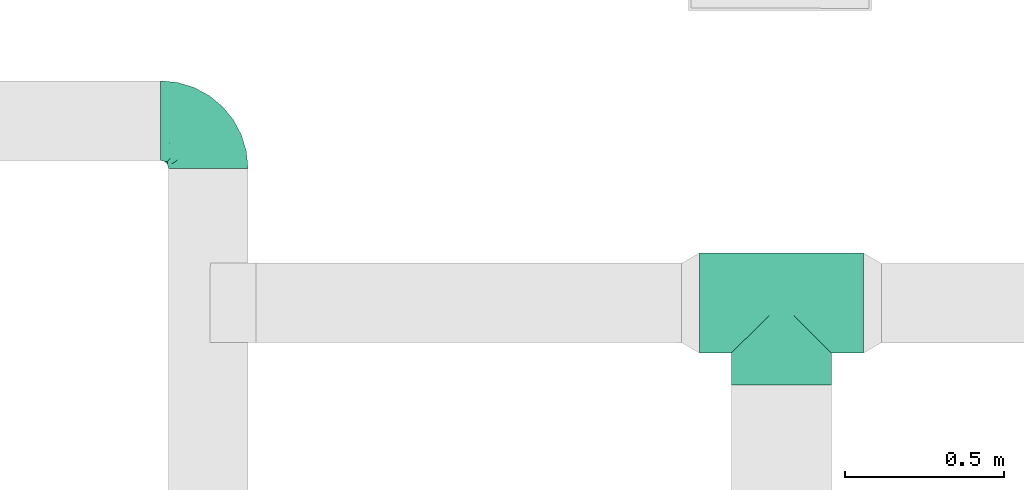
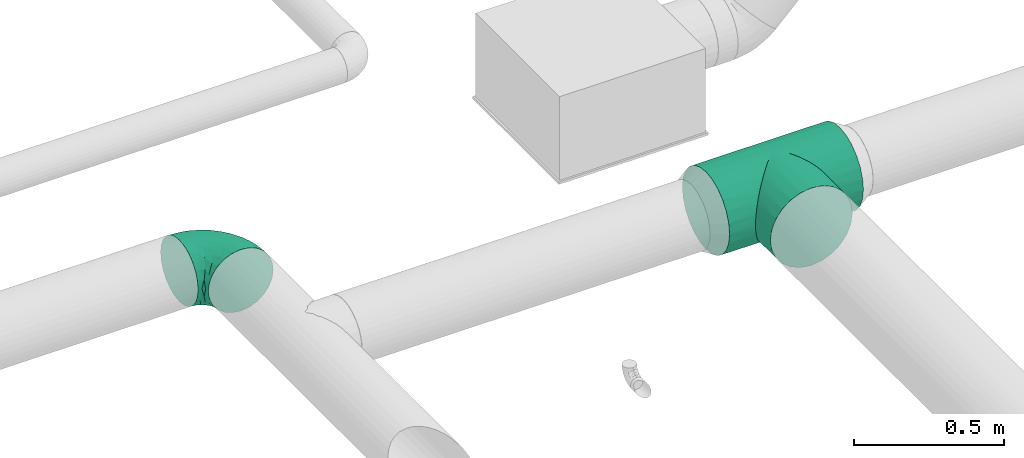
# One storey, part 43 of 63: 2 flow fittings.
"""IFC2X3 building model written with IfcOpenShell, lengths in millimetres."""

import ifcopenshell
import ifcopenshell.guid

model = None  # the IFC model being written
_history = None  # IfcOwnerHistory: only IFC2X3 demands one
_inside = {}  # id of a spatial element -> (the spatial element, [elements in it])
_under = {}  # id of a project, library or spatial element -> (it, [spatial elements below it])
_declared = {}  # id of a project -> (the project, [libraries it declares])
_typed = {}  # id of a type object -> (the type object, [elements of that type])
_made_of = {}  # id of a material, layer set ... -> (it, [elements and type objects made of it])


def new_model(schema):
    """Start an empty IFC model of exactly this schema.

    Asked for "IFC4X3", IfcOpenShell would pick the latest addendum, in which some entities
    have other attributes; the version numbers below select the first issue.
    IFC2X3 requires an IfcOwnerHistory on every rooted entity: one is made here for all.
    """
    global model, _history
    if schema == "IFC4X3":
        model = ifcopenshell.file(schema_version=(4, 3, 0, 0))
    else:
        model = ifcopenshell.file(schema=schema)
    _inside.clear()
    _under.clear()
    _declared.clear()
    _typed.clear()
    _made_of.clear()
    _history = None
    if model.schema == "IFC2X3":
        org = make("IfcOrganization", Name="unknown")
        user = make(
            "IfcPersonAndOrganization",
            ThePerson=make("IfcPerson", FamilyName="unknown"),
            TheOrganization=org,
        )
        app = make(
            "IfcApplication",
            ApplicationDeveloper=org,
            Version="unknown",
            ApplicationFullName="unknown",
            ApplicationIdentifier="unknown",
        )
        _history = make(
            "IfcOwnerHistory",
            OwningUser=user,
            OwningApplication=app,
            ChangeAction="ADDED",
            CreationDate=0,
        )
    return model


def make(cls, **values):
    """One entity of the class cls with the attributes given. An attribute that is None is left unset."""
    return model.create_entity(
        cls, **{name: value for name, value in values.items() if value is not None}
    )


def entity(cls, *values):
    """Any entity or typed value of the class cls, its attributes in the order of the schema. None: left unset."""
    e = model.create_entity(cls)
    for i, value in enumerate(values):
        if value is not None:
            e[i] = value
    return e


def rooted(cls, **values):
    """An entity with a GlobalId (a new one), such as an element, a storey or a relation."""
    return make(cls, GlobalId=ifcopenshell.guid.new(), OwnerHistory=_history, **values)


def si_unit(unit_type, name, prefix=None):
    """IfcSIUnit, for example si_unit("LENGTHUNIT", "METRE", prefix="MILLI")."""
    return make("IfcSIUnit", UnitType=unit_type, Prefix=prefix, Name=name)


def converted_unit(unit_type, name, factor, base, dimensions=None, offset=None):
    """IfcConversionBasedUnit, such as the inch: factor (a typed value) times the base unit."""
    return make(
        "IfcConversionBasedUnit"
        if offset is None
        else "IfcConversionBasedUnitWithOffset",
        ConversionOffset=offset,
        Dimensions=None
        if dimensions is None
        else entity("IfcDimensionalExponents", *dimensions),
        UnitType=unit_type,
        Name=name,
        ConversionFactor=make(
            "IfcMeasureWithUnit", ValueComponent=factor, UnitComponent=base
        ),
    )


def derived_unit(unit_type, elements):
    """IfcDerivedUnit: a product of units, each with its exponent."""
    return make(
        "IfcDerivedUnit",
        Elements=[
            make("IfcDerivedUnitElement", Unit=unit, Exponent=power)
            for unit, power in elements
        ],
        UnitType=unit_type,
    )


def assignment(units):
    """IfcUnitAssignment: the units of a project."""
    return None if units is None else make("IfcUnitAssignment", Units=units)


def point(xyz):
    """IfcCartesianPoint."""
    return None if xyz is None else make("IfcCartesianPoint", Coordinates=xyz)


def direction(xyz):
    """IfcDirection."""
    return None if xyz is None else make("IfcDirection", DirectionRatios=xyz)


def frame(location, z_axis=None, x_axis=None):
    """IfcAxis2Placement3D, a coordinate frame: its origin and axes. An axis left out is left unset."""
    return make(
        "IfcAxis2Placement3D",
        Location=point(location),
        Axis=direction(z_axis),
        RefDirection=direction(x_axis),
    )


def origin_with_axes():
    """The frame at (0, 0, 0) with the z axis (0, 0, 1) and the x axis (1, 0, 0) written out."""
    return frame((0.0, 0.0, 0.0), z_axis=(0.0, 0.0, 1.0), x_axis=(1.0, 0.0, 0.0))


def place(relative_to, where):
    """IfcLocalPlacement: puts the frame where relative to a parent placement (None: the world)."""
    return make(
        "IfcLocalPlacement", PlacementRelTo=relative_to, RelativePlacement=where
    )


def context(
    kind, dimensions, precision=None, world=None, true_north=None, identifier=None
):
    """IfcGeometricRepresentationContext, for example the 3D "Model" context."""
    return make(
        "IfcGeometricRepresentationContext",
        ContextIdentifier=identifier,
        ContextType=kind,
        CoordinateSpaceDimension=dimensions,
        Precision=precision,
        WorldCoordinateSystem=world,
        TrueNorth=true_north,
    )


def subcontext(parent, identifier, kind, view, scale=None):
    """IfcGeometricRepresentationSubContext, for example "Body" below "Model"."""
    return make(
        "IfcGeometricRepresentationSubContext",
        ContextIdentifier=identifier,
        ContextType=kind,
        ParentContext=parent,
        TargetScale=scale,
        TargetView=view,
    )


def project(units=None, contexts=None):
    """IfcProject with its units and contexts."""
    return rooted(
        "IfcProject",
        Name="project",
        RepresentationContexts=contexts,
        UnitsInContext=assignment(units),
    )


def spatial(cls, under=None, at=None, **own):
    """A site, building, storey or space (cls), placed at a placement, below another one or the project."""
    s = rooted(cls, ObjectPlacement=at, **own)
    if under is not None:
        _under.setdefault(under.id(), (under, []))[1].append(s)
    return s


def faces_of(points, faces, orient=None, outer=None):
    """IfcFace entities. A face is a list of loops; a loop is a list of indices into points, from 0.

    orient and outer hold one flag for each loop. By default every Orientation is true, the
    first loop of a face is its IfcFaceOuterBound and the others are IfcFaceBound.
    """
    made = []
    for i, loops in enumerate(faces):
        bounds = []
        for j, loop in enumerate(loops):
            is_outer = j == 0 if outer is None else outer[i][j]
            bounds.append(
                make(
                    "IfcFaceOuterBound" if is_outer else "IfcFaceBound",
                    Bound=make("IfcPolyLoop", Polygon=[points[k] for k in loop]),
                    Orientation=True if orient is None else orient[i][j],
                )
            )
        made.append(make("IfcFace", Bounds=bounds))
    return made


def open_shell(faces, orient=None, outer=None):
    """The faces of one IfcOpenShell. surface_model builds it on its shared points."""
    return ("IfcOpenShell", faces, orient, outer)


def surface_model(cls, points, shells):
    """IfcFaceBasedSurfaceModel or IfcShellBasedSurfaceModel (cls): surfaces that need not close."""
    shared = [point(p) for p in points]
    made = [make(c, CfsFaces=faces_of(shared, fs, o, b)) for c, fs, o, b in shells]
    if cls == "IfcFaceBasedSurfaceModel":
        return make(cls, FbsmFaces=made)
    return make(cls, SbsmBoundary=made)


def shape(context_of_items, identifier, shape_type, items):
    """IfcShapeRepresentation: the items that make up one representation, for example the "Body"."""
    return make(
        "IfcShapeRepresentation",
        ContextOfItems=context_of_items,
        RepresentationIdentifier=identifier,
        RepresentationType=shape_type,
        Items=items,
    )


def source(mapping_origin, context_of_items, identifier, shape_type, items):
    """IfcRepresentationMap: a shape defined once, which mapped items show again and again."""
    return make(
        "IfcRepresentationMap",
        MappingOrigin=mapping_origin,
        MappedRepresentation=shape(context_of_items, identifier, shape_type, items),
    )


def transform(
    local_origin,
    x_axis=None,
    y_axis=None,
    z_axis=None,
    scale=None,
    scale2=None,
    scale3=None,
    uniform=True,
):
    """IfcCartesianTransformationOperator3D, or its non-uniform kind. x_axis, y_axis, z_axis: its Axis1, 2, 3."""
    if uniform:
        return make(
            "IfcCartesianTransformationOperator3D",
            Axis1=direction(x_axis),
            Axis2=direction(y_axis),
            LocalOrigin=point(local_origin),
            Scale=scale,
            Axis3=direction(z_axis),
        )
    return make(
        "IfcCartesianTransformationOperator3DnonUniform",
        Axis1=direction(x_axis),
        Axis2=direction(y_axis),
        LocalOrigin=point(local_origin),
        Scale=scale,
        Axis3=direction(z_axis),
        Scale2=scale2,
        Scale3=scale3,
    )


def mapped(mapping_source, mapping_target):
    """IfcMappedItem: shows the shape of a source again, moved by a transform."""
    return make(
        "IfcMappedItem", MappingSource=mapping_source, MappingTarget=mapping_target
    )


def made_of(thing, what):
    """Note that an element or type object is made of a material, layer set ...; save() writes the relation."""
    if what is not None:
        _made_of.setdefault(what.id(), (what, []))[1].append(thing)
    return thing


def type_object(cls, material=None, **own):
    """A type object (cls), such as IfcWallType, which elements share."""
    return made_of(rooted(cls, **own), material)


def element(
    cls,
    number,
    at=None,
    inside=None,
    cuts=None,
    type_object=None,
    material=None,
    context=None,
    identifier="Body",
    shape_type=None,
    held_by="IfcProductDefinitionShape",
    body=None,
    shapes=None,
    **own,
):
    """One element of the class cls, such as IfcWall. Its Tag is "e" and its number.

    at: its placement. inside: the storey or other place that contains it. cuts: it is an
    opening in that element (IfcRelVoidsElement). A single representation is given by context,
    identifier, shape_type and body (its items); several are given by shapes. held_by: the class
    of the entity that holds the representations. save() writes the other relations.
    """
    e = rooted(cls, Tag="e%d" % number, ObjectPlacement=at, **own)
    if body is not None:
        shapes = [shape(context, identifier, shape_type, body)]
    if shapes is not None:
        e.Representation = make(held_by, Representations=shapes)
    if inside is not None:
        _inside.setdefault(inside.id(), (inside, []))[1].append(e)
    if cuts is not None:
        rooted(
            "IfcRelVoidsElement", RelatingBuildingElement=cuts, RelatedOpeningElement=e
        )
    if type_object is not None:
        _typed.setdefault(type_object.id(), (type_object, []))[1].append(e)
    return made_of(e, material)


def aggregate(whole, parts):
    """IfcRelAggregates: a whole, such as a stair, and the parts it consists of."""
    return rooted("IfcRelAggregates", RelatingObject=whole, RelatedObjects=parts)


def save(model, path):
    """Write the relations noted so far, then the file.

    IfcRelAggregates (storeys below a building ...), IfcRelContainedInSpatialStructure (elements
    in a storey), IfcRelDefinesByType, IfcRelAssociatesMaterial and IfcRelDeclares: one each for
    every whole, place, type object, material and project.
    """
    for whole, parts in _under.values():
        aggregate(whole, parts)
    for where, things in _inside.values():
        rooted(
            "IfcRelContainedInSpatialStructure",
            RelatedElements=things,
            RelatingStructure=where,
        )
    for kind, things in _typed.values():
        rooted("IfcRelDefinesByType", RelatedObjects=things, RelatingType=kind)
    for what, things in _made_of.values():
        rooted("IfcRelAssociatesMaterial", RelatedObjects=things, RelatingMaterial=what)
    for by, libraries in _declared.values():
        rooted("IfcRelDeclares", RelatingContext=by, RelatedDefinitions=libraries)
    model.write(path)


model = new_model("IFC2X3")

# Units and contexts
model_context = context("Model", 3, precision=0.01, world=frame((0.0, 4.29681676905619e-09, 0.0)), true_north=direction((4.01073788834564e-13, 1.0)))
plan_context = context("Plan", 3, precision=0.01, world=frame((0.0, 4.29681676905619e-09, 0.0)), true_north=direction((4.01073788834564e-13, 1.0)))
body_context = subcontext(model_context, "Body", "Model", "MODEL_VIEW")
ifc_project = project(units=[converted_unit("PLANEANGLEUNIT", "DEGREE", entity("IfcPositiveLengthMeasure", 0.0174532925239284), si_unit("PLANEANGLEUNIT", "RADIAN"), dimensions=[0, 0, 0, 0, 0, 0, 0]), si_unit("AREAUNIT", "SQUARE_METRE"), si_unit("LENGTHUNIT", "METRE", prefix="MILLI"), si_unit("MASSUNIT", "GRAM", prefix="KILO"), si_unit("POWERUNIT", "WATT"), si_unit("PRESSUREUNIT", "PASCAL"), si_unit("FORCEUNIT", "NEWTON", prefix="KILO"), si_unit("ELECTRICVOLTAGEUNIT", "VOLT"), si_unit("ELECTRICCURRENTUNIT", "AMPERE"), si_unit("THERMODYNAMICTEMPERATUREUNIT", "DEGREE_CELSIUS"), si_unit("TIMEUNIT", "SECOND"), si_unit("VOLUMEUNIT", "CUBIC_METRE"), derived_unit("LINEARVELOCITYUNIT", [(si_unit("LENGTHUNIT", "METRE"), 1), (si_unit("TIMEUNIT", "SECOND"), -1)]), derived_unit("VOLUMETRICFLOWRATEUNIT", [(si_unit("VOLUMEUNIT", "CUBIC_METRE"), 1), (si_unit("TIMEUNIT", "SECOND"), -1)]), derived_unit("THERMALTRANSMITTANCEUNIT", [(si_unit("POWERUNIT", "WATT"), 1), (si_unit("THERMODYNAMICTEMPERATUREUNIT", "KELVIN"), -1), (si_unit("AREAUNIT", "SQUARE_METRE"), -1)]), derived_unit("SOUNDPRESSUREUNIT", [(si_unit("PRESSUREUNIT", "PASCAL"), 1)])], contexts=[model_context, plan_context])

# Site, building, storey
site_placement = place(None, frame((0.0, -4.29681676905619e-09, 0.0), z_axis=(0.0, 0.0, 1.0), x_axis=(1.0, 0.0, 0.0)))
site = spatial("IfcSite", under=ifc_project, at=site_placement, CompositionType="ELEMENT")
building_placement = place(site_placement, frame((0.0, 4.29681676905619e-09, 0.0), z_axis=(0.0, 0.0, 1.0), x_axis=(1.0, 0.0, 0.0)))
building = spatial("IfcBuilding", under=site, at=building_placement, Name="mc-building", CompositionType="ELEMENT")
storey_placement = place(building_placement, frame((0.0, 0.0, 210900.0), z_axis=(0.0, 0.0, 1.0), x_axis=(1.0, 0.0, 0.0)))
storey = spatial("IfcBuildingStorey", under=building, at=storey_placement, Name="Nivå F", CompositionType="ELEMENT", Elevation=210900.0)

# Flow fittings
duct_fitting_type_1 = type_object("IfcDuctFittingType", Name="magicirc_tee_centric_90_001", PredefinedType="JUNCTION")
shared_shape_1 = source(origin_with_axes(), body_context, "Body", "SurfaceModel", [
    surface_model("IfcShellBasedSurfaceModel", [(-257.5, 40.764, -152.13332), (-257.5, 0.0, -157.5), (-257.5, 152.13332, -40.764), (-257.5, 78.75, -136.39901), (-257.5, 136.39901, -78.75), (-257.5, 111.36932, -111.36932), (-257.5, -157.5, 0.0), (-257.5, -78.75, -136.39901), (-257.5, -111.36932, -111.36932), (-257.5, -40.764, -152.13332), (-257.5, -152.13332, -40.764), (-257.5, -136.39901, -78.75), (-257.5, -111.36932, 111.36932), (-257.5, 136.39901, 78.75), (-257.5, 152.13332, 40.764), (-257.5, 157.5, 0.0), (-257.5, 40.764, 152.13332), (-257.5, 78.75, 136.39901), (-257.5, 111.36932, 111.36932), (-257.5, 0.0, 157.5), (-257.5, -152.13332, 40.764), (-257.5, -136.39901, 78.75), (-257.5, -78.75, 136.39901), (-257.5, -40.764, 152.13332), (257.5, 152.13332, -40.764), (257.5, 0.0, -157.5), (257.5, 40.764, -152.13332), (257.5, 78.75, -136.39901), (257.5, 111.36932, -111.36932), (257.5, 136.39901, -78.75), (257.5, -40.764, -152.13332), (257.5, -111.36932, -111.36932), (257.5, -78.75, -136.39901), (257.5, -152.13332, -40.764), (257.5, -136.39901, -78.75), (257.5, -157.5, 0.0), (257.5, 136.39901, 78.75), (257.5, 157.5, 0.0), (257.5, 152.13332, 40.764), (257.5, -111.36932, 111.36932), (257.5, 78.75, 136.39901), (257.5, 40.764, 152.13332), (257.5, 111.36932, 111.36932), (257.5, 0.0, 157.5), (257.5, -136.39901, 78.75), (257.5, -152.13332, 40.764), (257.5, -40.764, 152.13332), (257.5, -78.75, 136.39901), (156.38291, -156.38291, 18.72524), (157.5, -157.5, 0.0), (257.5, -154.81666, 20.382), (153.10726, -153.10726, 36.93798), (140.95819, -140.95819, 70.26406), (147.87507, -147.87507, 54.21453), (257.5, -144.26616, 59.757), (257.5, -123.88416, 95.05966), (132.64215, -132.64215, 84.92533), (123.18918, -123.18918, 98.13601), (112.82257, -112.82257, 109.89684), (90.04708, -90.04708, 129.21987), (101.72534, -101.72534, 120.24227), (257.5, -95.05966, 123.88416), (-147.87507, -147.87507, 54.21453), (-257.5, -144.26616, 59.757), (-153.10726, -153.10726, 36.93798), (-157.5, -157.5, 0.0), (-156.38291, -156.38291, 18.72524), (-257.5, -154.81666, 20.382), (-140.95819, -140.95819, 70.26406), (-123.18918, -123.18918, 98.13601), (-112.82257, -112.82257, 109.89684), (-90.04708, -90.04708, 129.21987), (-257.5, -95.05966, 123.88416), (-101.72534, -101.72534, 120.24227), (-257.5, -123.88416, 95.05966), (-132.64215, -132.64215, 84.92533), (-77.91101, -77.91101, 136.87996), (77.91101, -77.91101, 136.87996), (65.41408, -65.41408, 143.27333), (52.63766, -52.63766, 148.44368), (26.51413, -26.51413, 155.25222), (39.65101, -39.65101, 152.42718), (0.0, 0.0, 157.5), (13.28058, -13.28058, 156.93908), (-26.51413, -26.51413, 155.25222), (-39.65101, -39.65101, 152.42718), (-65.41408, -65.41408, 143.27333), (-52.63766, -52.63766, 148.44368), (-13.28058, -13.28058, 156.93908), (0.0, 0.0, -157.5), (65.41408, -65.41408, -143.27333), (77.91101, -77.91101, -136.87996), (52.63766, -52.63766, -148.44368), (90.04708, -90.04708, -129.21987), (257.5, -95.05966, -123.88416), (101.72534, -101.72534, -120.24227), (13.28058, -13.28058, -156.93908), (26.51413, -26.51413, -155.25222), (140.95819, -140.95819, -70.26406), (257.5, -144.26616, -59.757), (147.87507, -147.87507, -54.21453), (39.65101, -39.65101, -152.42718), (-132.64215, -132.64215, -84.92533), (-257.5, -123.88416, -95.05966), (-123.18918, -123.18918, -98.13601), (-13.28058, -13.28058, -156.93908), (-26.51413, -26.51413, -155.25222), (-101.72534, -101.72534, -120.24227), (-257.5, -95.05966, -123.88416), (-39.65101, -39.65101, -152.42718), (-52.63766, -52.63766, -148.44368), (123.18918, -123.18918, -98.13601), (257.5, -123.88416, -95.05966), (-147.87507, -147.87507, -54.21453), (-257.5, -144.26616, -59.757), (-65.41408, -65.41408, -143.27333), (153.10726, -153.10726, -36.93798), (257.5, -154.81666, -20.382), (156.38291, -156.38291, -18.72524), (-77.91101, -77.91101, -136.87996), (-156.38291, -156.38291, -18.72524), (-257.5, -154.81666, -20.382), (132.64215, -132.64215, -84.92533), (112.82257, -112.82257, -109.89684), (-112.82257, -112.82257, -109.89684), (-90.04708, -90.04708, -129.21987), (-140.95819, -140.95819, -70.26406), (-153.10726, -153.10726, -36.93798), (152.13332, -257.5, -40.764), (0.0, -257.5, -157.5), (40.764, -257.5, -152.13332), (78.75, -257.5, -136.39901), (111.36932, -257.5, -111.36932), (136.39901, -257.5, -78.75), (-157.5, -257.5, 0.0), (-40.764, -257.5, -152.13332), (-111.36932, -257.5, -111.36932), (-78.75, -257.5, -136.39901), (-152.13332, -257.5, -40.764), (-136.39901, -257.5, -78.75), (157.5, -257.5, 0.0), (152.13332, -257.5, 40.764), (136.39901, -257.5, 78.75), (-40.764, -257.5, 152.13332), (78.75, -257.5, 136.39901), (40.764, -257.5, 152.13332), (111.36932, -257.5, 111.36932), (0.0, -257.5, 157.5), (-136.39901, -257.5, 78.75), (-152.13332, -257.5, 40.764), (-111.36932, -257.5, 111.36932), (-78.75, -257.5, 136.39901)], [open_shell([[[0, 1, 2]], [[3, 0, 2]], [[2, 4, 5]], [[3, 2, 5]], [[6, 2, 1]], [[7, 8, 9]], [[10, 9, 8]], [[11, 10, 8]], [[6, 9, 10]], [[6, 1, 9]], [[6, 12, 2]], [[13, 14, 15]], [[12, 13, 2]], [[13, 16, 17]], [[18, 13, 17]], [[16, 13, 19]], [[20, 21, 6]], [[6, 21, 12]], [[22, 23, 12]], [[23, 13, 12]], [[13, 23, 19]], [[13, 15, 2]], [[24, 25, 26]], [[24, 26, 27]], [[28, 29, 24]], [[28, 24, 27]], [[25, 24, 30]], [[30, 31, 32]], [[31, 30, 33]], [[31, 33, 34]], [[33, 30, 35]], [[30, 24, 35]], [[24, 36, 35]], [[37, 38, 36]], [[36, 39, 35]], [[40, 41, 36]], [[40, 36, 42]], [[43, 36, 41]], [[35, 44, 45]], [[39, 44, 35]], [[39, 46, 47]], [[39, 36, 46]], [[43, 46, 36]], [[36, 24, 37]], [[48, 49, 35]], [[50, 45, 51]], [[48, 50, 51]], [[52, 53, 54]], [[51, 45, 53]], [[54, 44, 52]], [[44, 55, 56]], [[57, 55, 39]], [[44, 56, 52]], [[58, 57, 39]], [[59, 60, 61]], [[58, 39, 60]], [[61, 47, 59]], [[20, 62, 63]], [[64, 62, 20]], [[6, 65, 66]], [[66, 67, 6]], [[67, 64, 20]], [[68, 21, 63]], [[69, 70, 12]], [[71, 22, 72]], [[70, 73, 12]], [[69, 74, 75]], [[75, 21, 68]], [[75, 74, 21]], [[73, 72, 12]], [[22, 71, 76]], [[77, 47, 78]], [[78, 47, 46]], [[60, 39, 61]], [[79, 78, 46]], [[53, 45, 54]], [[80, 81, 46]], [[79, 46, 81]], [[46, 43, 80]], [[64, 67, 66]], [[42, 18, 40]], [[36, 13, 42]], [[38, 14, 36]], [[82, 83, 43]], [[43, 83, 80]], [[82, 43, 41]], [[40, 17, 41]], [[38, 37, 15]], [[69, 12, 74]], [[48, 35, 50]], [[56, 55, 57]], [[23, 84, 19]], [[85, 84, 23]], [[86, 23, 22]], [[87, 23, 86]], [[23, 87, 85]], [[86, 22, 76]], [[84, 88, 19]], [[68, 63, 62]], [[82, 19, 88]], [[19, 82, 16]], [[16, 82, 41]], [[17, 16, 41]], [[40, 18, 17]], [[42, 13, 18]], [[14, 13, 36]], [[38, 15, 14]], [[71, 72, 73]], [[77, 59, 47]], [[28, 27, 3]], [[27, 26, 0]], [[2, 37, 24]], [[2, 24, 29]], [[29, 28, 5]], [[89, 26, 25]], [[90, 32, 91]], [[32, 90, 30]], [[30, 90, 92]], [[93, 94, 95]], [[96, 25, 97]], [[98, 99, 100]], [[92, 101, 30]], [[97, 30, 101]], [[102, 103, 104]], [[97, 25, 30]], [[25, 96, 89]], [[37, 2, 15]], [[26, 89, 0]], [[29, 4, 2]], [[29, 5, 4]], [[28, 3, 5]], [[0, 3, 27]], [[89, 1, 0]], [[105, 106, 1]], [[107, 8, 108]], [[109, 110, 9]], [[111, 31, 112]], [[113, 10, 114]], [[106, 109, 9]], [[1, 106, 9]], [[9, 115, 7]], [[116, 117, 118]], [[110, 115, 9]], [[7, 115, 119]], [[120, 6, 121]], [[105, 1, 89]], [[95, 94, 31]], [[122, 112, 34]], [[111, 112, 122]], [[93, 32, 94]], [[111, 123, 31]], [[95, 31, 123]], [[100, 99, 33]], [[117, 35, 118]], [[49, 118, 35]], [[98, 34, 99]], [[116, 33, 117]], [[100, 33, 116]], [[34, 98, 122]], [[107, 124, 8]], [[107, 108, 125]], [[125, 108, 7]], [[8, 104, 103]], [[124, 104, 8]], [[103, 102, 11]], [[7, 119, 125]], [[113, 114, 126]], [[120, 121, 127]], [[113, 127, 10]], [[126, 114, 11]], [[10, 127, 121]], [[65, 6, 120]], [[126, 11, 102]], [[91, 32, 93]], [[128, 129, 130]], [[128, 130, 131]], [[132, 133, 128]], [[132, 128, 131]], [[129, 128, 134]], [[135, 136, 137]], [[136, 135, 138]], [[136, 138, 139]], [[138, 135, 134]], [[135, 129, 134]], [[128, 140, 134]], [[140, 141, 142]], [[143, 140, 142]], [[144, 145, 142]], [[144, 142, 146]], [[147, 142, 145]], [[134, 148, 149]], [[150, 148, 134]], [[150, 143, 151]], [[150, 140, 143]], [[147, 143, 142]], [[150, 134, 140]], [[134, 149, 66]], [[66, 65, 134]], [[64, 66, 149]], [[149, 62, 64]], [[150, 69, 148]], [[151, 73, 150]], [[62, 148, 68]], [[148, 62, 149]], [[75, 68, 148]], [[151, 143, 86]], [[69, 75, 148]], [[70, 69, 150]], [[71, 73, 151]], [[76, 71, 151]], [[70, 150, 73]], [[87, 86, 143]], [[85, 87, 143]], [[147, 88, 84]], [[147, 82, 88]], [[85, 143, 84]], [[76, 151, 86]], [[147, 84, 143]], [[146, 60, 144]], [[145, 80, 147]], [[145, 144, 78]], [[57, 146, 142]], [[48, 141, 140]], [[48, 140, 49]], [[51, 53, 141]], [[48, 51, 141]], [[141, 53, 142]], [[52, 142, 53]], [[78, 79, 145]], [[77, 78, 144]], [[80, 83, 147]], [[81, 80, 145]], [[79, 81, 145]], [[56, 57, 142]], [[52, 56, 142]], [[60, 59, 144]], [[58, 60, 146]], [[57, 58, 146]], [[77, 144, 59]], [[147, 83, 82]], [[140, 128, 118]], [[118, 49, 140]], [[116, 118, 128]], [[128, 100, 116]], [[132, 111, 133]], [[131, 95, 132]], [[100, 133, 98]], [[133, 100, 128]], [[122, 98, 133]], [[131, 130, 90]], [[111, 122, 133]], [[123, 111, 132]], [[93, 95, 131]], [[91, 93, 131]], [[123, 132, 95]], [[92, 90, 130]], [[101, 92, 130]], [[129, 96, 97]], [[129, 89, 96]], [[101, 130, 97]], [[91, 131, 90]], [[129, 97, 130]], [[136, 107, 137]], [[135, 106, 129]], [[135, 137, 115]], [[104, 136, 139]], [[120, 138, 134]], [[120, 134, 65]], [[127, 113, 138]], [[120, 127, 138]], [[138, 113, 139]], [[126, 139, 113]], [[115, 110, 135]], [[119, 115, 137]], [[106, 105, 129]], [[109, 106, 135]], [[110, 109, 135]], [[102, 104, 139]], [[126, 102, 139]], [[107, 125, 137]], [[124, 107, 136]], [[104, 124, 136]], [[119, 137, 125]], [[129, 105, 89]]])]),
])
flow_fitting_1_placement = place(storey_placement, frame((532306.14872, 459789.05372, 4200.0), z_axis=(0.0, 0.0, 1.0), x_axis=(0.999999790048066, -0.000647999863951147, 0.0)))
element("IfcFlowFitting", 1, at=flow_fitting_1_placement, inside=storey, type_object=duct_fitting_type_1, Name="magicirc_tee_centric_90_001", context=body_context, shape_type="MappedRepresentation", body=[
    mapped(shared_shape_1, transform((0.0, 0.0, 0.0), scale=1.0)),
])
duct_fitting_type_2 = type_object("IfcDuctFittingType", Name="magicirc_elbow_short_001", PredefinedType="BEND")
shared_shape_2 = source(origin_with_axes(), body_context, "Body", "SurfaceModel", [
    surface_model("IfcShellBasedSurfaceModel", [(-149.99602, 0.0, -125.0), (-149.99602, -32.35238, -120.74073), (-149.99602, 32.35238, -120.74073), (-149.99602, 62.5, -108.25318), (-149.99602, 88.38835, -88.38835), (-149.99602, 108.25318, -62.5), (-149.99602, 120.74073, -32.35238), (-149.99602, -62.5, -108.25318), (-149.99602, -88.38835, -88.38835), (-149.99602, -125.0, 0.0), (-149.99602, -108.25318, -62.5), (-149.99602, -120.74073, -32.35238), (-149.99602, 125.0, 0.0), (-149.99602, -120.74073, 32.35238), (-149.99602, 120.74073, 32.35238), (-149.99602, 108.25318, 62.5), (-149.99602, 32.35238, 120.74073), (-149.99602, 62.5, 108.25318), (-149.99602, 88.38835, 88.38835), (-149.99602, -88.38835, 88.38835), (-149.99602, -108.25318, 62.5), (-149.99602, -32.35238, 120.74073), (-149.99602, 0.0, 125.0), (-149.99602, -62.5, 108.25318), (-32.3484, 149.99688, -120.74073), (88.39232, 149.99368, -88.38835), (0.00398, 149.99602, -125.0), (-108.2492, 149.99889, -62.5), (-62.49602, 149.99768, -108.25318), (-32.3484, 149.99688, 120.74073), (-88.38437, 149.99837, -88.38835), (88.39232, 149.99368, 88.38835), (32.35636, 149.99517, -120.74073), (62.50398, 149.99437, -108.25318), (120.7447, 149.99282, -32.35238), (108.25715, 149.99315, -62.5), (125.00398, 149.99271, 0.0), (120.7447, 149.99282, 32.35238), (-124.99602, 149.99934, 0.0), (-120.73675, 149.99922, -32.35238), (-120.73675, 149.99922, 32.35238), (-108.2492, 149.99889, 62.5), (-88.38437, 149.99837, 88.38835), (-62.49602, 149.99768, 108.25318), (108.25715, 149.99315, 62.5), (62.50398, 149.99437, 108.25318), (0.00398, 149.99602, 125.0), (32.35636, 149.99517, 120.74073), (3.44122, -49.56921, 72.62816), (-18.36221, -48.37198, 88.70226), (-18.83183, -66.65068, 70.4414), (-111.90035, -117.21341, 35.289), (-118.94643, -121.94193, 0.0), (25.87177, 108.54983, 121.17483), (-75.77196, -90.32163, 72.9255), (-74.87201, -74.03384, 90.43435), (-106.1789, -83.07979, 89.59727), (-96.34708, -119.71613, 0.0), (-46.47457, 70.62082, 123.46206), (-76.11573, 76.11774, 116.41858), (-69.40394, 48.88136, 123.27514), (-124.48909, -102.85847, 69.13394), (58.21195, -16.89617, 44.41669), (37.6858, -37.68681, 47.97819), (52.73774, -32.74924, 22.57979), (-124.77405, -54.06966, 111.94261), (-90.65213, -57.43352, 106.30727), (32.14658, -52.27069, 26.33862), (-0.28014, -75.281, 33.26374), (23.61964, -61.5563, 0.0), (-95.68662, 131.65336, 83.88249), (-69.77513, 120.79953, 106.99523), (-67.09325, -108.40687, 29.86554), (-70.55342, -111.89185, 0.0), (-44.75976, -104.06757, 0.0), (-59.72485, 94.86087, 116.91667), (-108.55054, -25.86889, 121.17484), (54.07297, 124.77261, 111.94261), (-27.02453, -92.24501, 28.65992), (-114.99916, 7.32104, 124.96176), (14.59713, -56.28266, 51.49457), (-29.53152, 7.28312, 119.47219), (-3.38843, -9.52546, 105.74147), (0.96821, 29.12189, 117.22566), (-136.08631, 114.55349, 55.66389), (-123.43017, 95.73575, 87.17851), (-119.07104, 119.07419, 65.82381), (-129.08803, 129.09145, 33.48606), (-137.49621, 128.34925, 0.0), (-121.40764, 69.81751, 106.84771), (-149.99602, 47.42619, 114.49695), (-128.63173, 33.72663, 120.8926), (-27.57829, -83.17238, 52.686), (-47.99182, -78.87423, 74.22596), (-54.84155, -96.1346, 51.52316), (103.28828, 90.84958, 59.18714), (90.74559, 74.5486, 71.84764), (96.43656, 48.90499, 45.65814), (-41.12464, 38.26574, 124.85568), (102.86178, 124.48636, 69.13394), (83.08261, 106.17669, 89.59727), (-94.00515, 107.98079, 96.05038), (74.96218, 76.42575, 90.06035), (117.21637, 111.89724, 35.289), (121.94509, 118.94319, 0.0), (-47.29846, -61.15916, 91.82884), (78.8755, 47.98971, 74.22595), (76.93842, 15.75982, 52.0104), (-101.88217, 84.02195, 104.6632), (110.189, 71.47544, 28.20523), (111.89372, 70.55045, 0.0), (55.39788, 7.24202, 74.82239), (24.63638, -24.60088, 78.90896), (57.43592, 90.6506, 106.30727), (30.02266, 57.29751, 113.44711), (-128.34561, 137.49962, 0.0), (-73.97076, 6.61117, 124.3937), (-33.51931, 127.65725, 120.99197), (-7.19673, 114.11074, 124.96953), (-18.4278, 93.19828, 124.82063), (15.00099, 81.70786, 121.69085), (-109.70188, 132.72949, 65.99178), (-81.51823, -16.35139, 121.37267), (-56.48482, -29.68298, 113.41299), (55.20451, 44.93862, 95.60097), (-90.85232, -103.28587, 59.18714), (-26.42813, -29.68456, 104.83869), (-7.20803, 68.77464, 124.18233), (30.67519, 15.69497, 99.90836), (-47.42221, 149.99728, 114.49695), (-107.88439, 38.92196, 121.04177), (-96.14748, 61.71393, 115.99389), (-96.30893, 19.15355, 124.70603), (70.72222, -10.51701, 22.73889), (104.06876, 44.757, 0.0), (102.02262, 45.45541, 23.12466), (89.00178, 19.0756, 24.83039), (119.71868, 96.3439, 0.0), (-20.98812, -91.36162, 0.0), (78.65559, -2.7856, 0.0), (91.36217, 20.9857, 0.0), (2.78352, -78.65566, 0.0), (44.45576, -44.45694, 0.0), (61.55568, -23.62127, 0.0), (-38.84546, 105.96683, 121.2357), (-120.7977, 69.77833, -106.99523), (54.07297, 124.77262, -111.94261), (-90.65213, -57.43352, -106.30727), (-124.77405, -54.06966, -111.94261), (-108.55054, -25.86889, -121.17484), (-18.36222, -48.37198, -88.70226), (-18.83183, -66.65067, -70.4414), (-47.29846, -61.15917, -91.82884), (-96.30893, 19.15354, -124.70603), (-73.97076, 6.61117, -124.3937), (-114.99916, 7.32104, -124.96176), (15.00099, 81.70788, -121.69085), (25.87177, 108.54985, -121.17483), (30.02266, 57.29753, -113.44712), (-129.08803, 129.09145, -33.48606), (-95.73247, 123.43271, -87.17851), (-84.01924, 101.88439, -104.66321), (-107.97831, 94.00801, -96.05038), (-0.28014, -75.281, -33.26373), (-131.65082, 95.69012, -83.88248), (-132.72658, 109.7054, -65.99178), (-107.88438, 38.92196, -121.04177), (-128.63173, 33.72663, -120.8926), (-119.07104, 119.07419, -65.82381), (-111.90035, -117.21341, -35.289), (-48.07089, 68.7252, -123.44781), (-7.20802, 68.77464, -124.18233), (-41.12463, 38.26572, -124.85568), (-76.11573, 76.11774, -116.41858), (-69.69248, 48.66858, -123.27297), (-95.37882, 59.83869, -116.77793), (-106.1789, -83.07979, -89.59727), (-3.38843, -9.52546, -105.74147), (24.63637, -24.60089, -78.90896), (-54.84155, -96.1346, -51.52316), (-75.77196, -90.32163, -72.9255), (-47.99181, -78.87423, -74.22596), (-124.48909, -102.85847, -69.13394), (30.67522, 15.69497, -99.90835), (0.96822, 29.1219, -117.22565), (-69.81429, 121.4095, -106.84771), (-27.02453, -92.24501, -28.65992), (-67.09325, -108.40687, -29.86554), (78.8755, 47.98971, -74.22596), (96.43655, 48.90503, -45.6582), (76.93845, 15.75984, -52.01034), (37.6858, -37.68681, -47.97819), (58.21195, -16.89617, -44.41669), (52.73774, -32.74924, -22.57979), (-114.54988, 136.08934, -55.66389), (117.21637, 111.89724, -35.289), (-7.19673, 114.11072, -124.96953), (-27.57829, -83.17238, -52.686), (-47.42221, 149.99728, -114.49695), (-33.5193, 127.65725, -120.99197), (32.14658, -52.27069, -26.33862), (14.59713, -56.28266, -51.49457), (83.08261, 106.17669, -89.59727), (102.86178, 124.48636, -69.13394), (89.00183, 19.07568, -24.83034), (57.43592, 90.6506, -106.30727), (110.189, 71.47542, -28.20523), (102.0226, 45.45537, -23.12467), (-90.85232, -103.28587, -59.18714), (90.01388, 76.64378, -73.68908), (73.67387, 74.26977, -90.57851), (-29.5315, 7.28312, -119.47218), (-56.48482, -29.68298, -113.41299), (-74.87201, -74.03384, -90.43435), (-81.51823, -16.35139, -121.37267), (-26.42813, -29.68456, -104.83869), (103.28828, 90.84958, -59.18714), (-18.4278, 93.19827, -124.82063), (-38.84546, 105.96682, -121.2357), (55.20451, 44.93866, -95.60098), (-149.99602, 47.42619, -114.49695), (55.39793, 7.24207, -74.82238), (-61.71138, 96.14911, -115.99389), (3.44122, -49.5692, -72.62817), (70.72222, -10.51701, -22.73889)], [open_shell([[[0, 1, 2]], [[3, 2, 4]], [[1, 5, 2]], [[4, 2, 5]], [[5, 1, 6]], [[7, 8, 1]], [[9, 1, 8]], [[10, 11, 8]], [[9, 8, 11]], [[9, 6, 1]], [[9, 12, 6]], [[12, 13, 14]], [[15, 14, 16]], [[16, 17, 18]], [[15, 16, 18]], [[16, 14, 19]], [[20, 19, 13]], [[19, 14, 13]], [[21, 22, 23]], [[19, 23, 22]], [[19, 22, 16]], [[9, 13, 12]], [[24, 25, 26]], [[27, 24, 28]], [[24, 27, 29]], [[27, 28, 30]], [[24, 31, 25]], [[32, 25, 33]], [[32, 26, 25]], [[25, 34, 35]], [[36, 34, 37]], [[34, 25, 37]], [[38, 27, 39]], [[27, 40, 29]], [[29, 40, 41]], [[42, 43, 29]], [[42, 29, 41]], [[29, 31, 24]], [[37, 31, 44]], [[25, 31, 37]], [[45, 46, 47]], [[46, 45, 31]], [[29, 46, 31]], [[40, 27, 38]], [[48, 49, 50]], [[51, 13, 52]], [[53, 47, 46]], [[54, 55, 56]], [[52, 57, 51]], [[58, 59, 60]], [[20, 61, 19]], [[62, 63, 64]], [[65, 56, 66]], [[67, 68, 69]], [[42, 70, 71]], [[72, 73, 74]], [[59, 58, 75]], [[21, 76, 22]], [[77, 45, 47]], [[23, 19, 56]], [[72, 74, 78]], [[79, 16, 22]], [[76, 21, 65]], [[67, 80, 68]], [[81, 82, 83]], [[84, 85, 86]], [[87, 12, 14]], [[12, 87, 88]], [[18, 17, 89]], [[51, 20, 13]], [[18, 89, 85]], [[17, 90, 91]], [[84, 14, 15]], [[90, 16, 91]], [[92, 93, 94]], [[41, 70, 42]], [[95, 96, 97]], [[83, 98, 81]], [[44, 31, 99]], [[100, 31, 45]], [[86, 85, 101]], [[102, 96, 100]], [[103, 104, 37]], [[66, 55, 105]], [[77, 100, 45]], [[103, 37, 44]], [[97, 106, 107]], [[85, 15, 18]], [[108, 85, 89]], [[85, 84, 15]], [[103, 109, 110]], [[111, 112, 62]], [[113, 53, 114]], [[88, 87, 115]], [[60, 116, 98]], [[115, 87, 38]], [[85, 108, 101]], [[40, 38, 87]], [[71, 117, 43]], [[118, 119, 120]], [[121, 40, 87]], [[70, 121, 101]], [[116, 122, 123]], [[113, 114, 124]], [[118, 53, 46]], [[43, 42, 71]], [[77, 53, 113]], [[72, 78, 94]], [[54, 125, 94]], [[21, 23, 65]], [[123, 76, 66]], [[61, 56, 19]], [[76, 122, 79]], [[93, 105, 55]], [[123, 126, 81]], [[102, 100, 113]], [[99, 100, 95]], [[46, 29, 118]], [[114, 120, 127]], [[127, 83, 114]], [[114, 83, 128]], [[75, 101, 59]], [[117, 29, 129]], [[106, 111, 107]], [[124, 111, 106]], [[130, 89, 17]], [[108, 131, 59]], [[118, 29, 117]], [[118, 117, 119]], [[51, 57, 73]], [[61, 51, 125]], [[99, 103, 44]], [[109, 95, 97]], [[76, 79, 22]], [[132, 79, 116]], [[83, 127, 98]], [[128, 83, 82]], [[127, 119, 58]], [[59, 131, 60]], [[128, 82, 112]], [[124, 114, 128]], [[49, 112, 82]], [[63, 80, 67]], [[126, 49, 82]], [[93, 92, 50]], [[111, 124, 128]], [[124, 106, 102]], [[112, 111, 128]], [[111, 62, 107]], [[98, 116, 81]], [[123, 81, 116]], [[133, 62, 64]], [[134, 109, 135]], [[136, 97, 107]], [[97, 135, 109]], [[110, 137, 103]], [[103, 95, 109]], [[78, 74, 138]], [[73, 72, 51]], [[51, 72, 125]], [[68, 80, 50]], [[72, 94, 125]], [[92, 94, 78]], [[54, 94, 93]], [[133, 107, 62]], [[136, 139, 140]], [[68, 92, 78]], [[50, 49, 105]], [[78, 141, 68]], [[68, 141, 69]], [[69, 142, 67]], [[64, 67, 142]], [[67, 64, 63]], [[68, 50, 92]], [[48, 50, 80]], [[63, 48, 80]], [[112, 49, 48]], [[133, 143, 139]], [[143, 133, 64]], [[139, 136, 133]], [[107, 133, 136]], [[64, 142, 143]], [[62, 112, 63]], [[48, 63, 112]], [[55, 54, 93]], [[56, 125, 54]], [[93, 50, 105]], [[56, 55, 66]], [[126, 105, 49]], [[66, 105, 123]], [[131, 108, 89]], [[101, 108, 59]], [[89, 130, 131]], [[60, 98, 58]], [[131, 130, 60]], [[60, 130, 132]], [[127, 58, 98]], [[75, 58, 144]], [[144, 71, 75]], [[101, 75, 71]], [[121, 70, 41]], [[135, 140, 134]], [[71, 70, 101]], [[40, 121, 41]], [[101, 121, 86]], [[84, 87, 14]], [[121, 87, 86]], [[13, 9, 52]], [[104, 103, 137]], [[104, 36, 37]], [[87, 84, 86]], [[51, 61, 20]], [[56, 61, 125]], [[56, 65, 23]], [[76, 65, 66]], [[100, 99, 31]], [[103, 99, 95]], [[53, 77, 47]], [[100, 77, 113]], [[117, 71, 144]], [[43, 117, 129]], [[117, 144, 119]], [[91, 130, 17]], [[16, 79, 91]], [[132, 91, 79]], [[79, 122, 116]], [[76, 123, 122]], [[124, 102, 113]], [[96, 102, 106]], [[97, 96, 106]], [[100, 96, 95]], [[114, 53, 120]], [[118, 120, 53]], [[58, 119, 144]], [[120, 119, 127]], [[60, 132, 116]], [[91, 132, 130]], [[81, 126, 82]], [[105, 126, 123]], [[97, 136, 135]], [[140, 135, 136]], [[109, 134, 110]], [[141, 78, 138]], [[4, 145, 3]], [[32, 33, 146]], [[147, 148, 149]], [[150, 151, 152]], [[153, 154, 155]], [[156, 157, 158]], [[88, 159, 12]], [[160, 161, 162]], [[159, 6, 12]], [[141, 163, 69]], [[162, 164, 165]], [[3, 166, 167]], [[168, 160, 162]], [[159, 165, 6]], [[10, 169, 11]], [[170, 171, 172]], [[169, 52, 11]], [[173, 174, 175]], [[7, 148, 176]], [[177, 178, 150]], [[179, 180, 181]], [[149, 1, 0]], [[34, 36, 104]], [[10, 8, 182]], [[183, 177, 184]], [[161, 160, 185]], [[186, 74, 187]], [[8, 7, 176]], [[188, 189, 190]], [[191, 192, 193]], [[159, 88, 115]], [[155, 149, 0]], [[38, 39, 159]], [[174, 173, 170]], [[194, 39, 27]], [[195, 35, 34]], [[4, 164, 145]], [[194, 160, 168]], [[24, 26, 196]], [[148, 7, 1]], [[155, 0, 2]], [[157, 196, 26]], [[163, 186, 197]], [[198, 24, 199]], [[200, 163, 201]], [[185, 160, 30]], [[160, 27, 30]], [[202, 33, 25]], [[35, 203, 25]], [[190, 189, 204]], [[184, 172, 171]], [[193, 142, 200]], [[32, 146, 157]], [[202, 205, 146]], [[206, 134, 207]], [[187, 169, 208]], [[104, 137, 195]], [[34, 104, 195]], [[30, 28, 185]], [[186, 141, 138]], [[32, 157, 26]], [[202, 209, 210]], [[211, 184, 177]], [[147, 149, 212]], [[180, 213, 181]], [[38, 159, 115]], [[182, 176, 208]], [[5, 164, 4]], [[212, 214, 154]], [[211, 212, 154]], [[215, 177, 150]], [[203, 202, 25]], [[209, 202, 216]], [[158, 157, 205]], [[217, 218, 199]], [[205, 210, 219]], [[184, 171, 158]], [[175, 162, 173]], [[220, 3, 167]], [[183, 178, 177]], [[190, 192, 221]], [[185, 28, 199]], [[161, 222, 173]], [[196, 157, 156]], [[28, 198, 199]], [[182, 169, 10]], [[169, 73, 57]], [[195, 110, 206]], [[203, 195, 216]], [[2, 220, 167]], [[155, 154, 214]], [[183, 184, 158]], [[184, 211, 172]], [[154, 153, 174]], [[173, 222, 170]], [[158, 219, 183]], [[183, 219, 221]], [[178, 183, 221]], [[197, 181, 151]], [[151, 223, 201]], [[213, 152, 181]], [[205, 219, 158]], [[188, 190, 221]], [[188, 221, 219]], [[178, 221, 192]], [[211, 177, 215]], [[154, 172, 211]], [[209, 189, 188]], [[190, 204, 224]], [[206, 189, 216]], [[207, 140, 204]], [[216, 195, 206]], [[169, 187, 73]], [[74, 73, 187]], [[187, 179, 186]], [[179, 187, 208]], [[186, 179, 197]], [[180, 179, 208]], [[197, 179, 181]], [[207, 189, 206]], [[208, 176, 180]], [[181, 152, 151]], [[197, 151, 163]], [[69, 163, 200]], [[141, 186, 163]], [[69, 200, 142]], [[191, 200, 201]], [[200, 191, 193]], [[223, 151, 150]], [[163, 151, 201]], [[150, 178, 223]], [[191, 223, 178]], [[223, 191, 201]], [[178, 192, 191]], [[224, 193, 192]], [[224, 143, 193]], [[190, 224, 192]], [[204, 139, 224]], [[143, 224, 139]], [[143, 142, 193]], [[213, 176, 147]], [[176, 213, 180]], [[147, 212, 152]], [[147, 152, 213]], [[215, 152, 212]], [[222, 161, 185]], [[162, 161, 173]], [[185, 218, 222]], [[170, 172, 174]], [[222, 218, 170]], [[170, 218, 217]], [[154, 174, 172]], [[175, 166, 145]], [[166, 175, 174]], [[162, 175, 145]], [[165, 164, 5]], [[140, 139, 204]], [[145, 164, 162]], [[6, 165, 5]], [[162, 165, 168]], [[194, 159, 39]], [[165, 159, 168]], [[52, 169, 57]], [[52, 9, 11]], [[160, 194, 27]], [[159, 194, 168]], [[176, 182, 8]], [[169, 182, 208]], [[149, 148, 1]], [[176, 148, 147]], [[195, 203, 35]], [[202, 203, 216]], [[202, 146, 33]], [[157, 146, 205]], [[218, 185, 199]], [[24, 196, 199]], [[217, 199, 196]], [[166, 3, 145]], [[153, 167, 166]], [[155, 2, 167]], [[212, 149, 214]], [[155, 214, 149]], [[189, 209, 216]], [[210, 209, 188]], [[219, 210, 188]], [[202, 210, 205]], [[158, 171, 156]], [[156, 171, 217]], [[156, 217, 196]], [[170, 217, 171]], [[167, 153, 155]], [[174, 153, 166]], [[152, 215, 150]], [[211, 215, 212]], [[140, 207, 134]], [[204, 189, 207]], [[110, 195, 137]], [[110, 134, 206]], [[138, 74, 186]]])]),
])
flow_fitting_2_placement = place(storey_placement, frame((530504.09314, 460362.68623, 4200.0), z_axis=(0.0, 0.0, 1.0), x_axis=(-2.69999999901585e-05, 0.9999999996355, 0.0)))
element("IfcFlowFitting", 2, at=flow_fitting_2_placement, inside=storey, type_object=duct_fitting_type_2, Name="magicirc_elbow_short_001", context=body_context, shape_type="MappedRepresentation", body=[
    mapped(shared_shape_2, transform((0.0, 0.0, 0.0), scale=1.0)),
])

save(model, "model.ifc")
